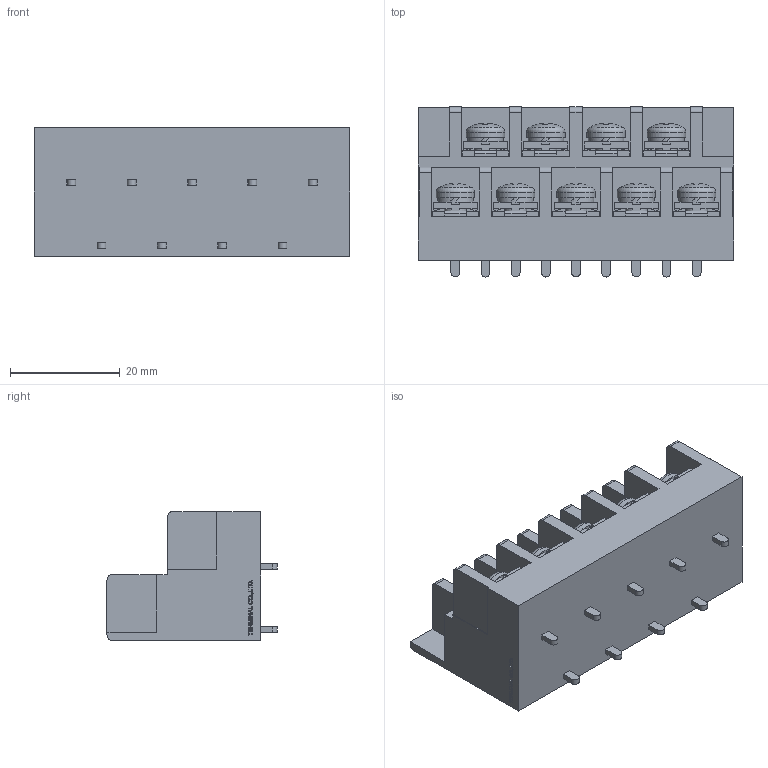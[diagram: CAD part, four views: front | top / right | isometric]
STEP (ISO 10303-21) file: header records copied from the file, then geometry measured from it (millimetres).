
FILE_DESCRIPTION(/* description */ ('Alibre Inc.'),/* implementation_level */ '2;1');
FILE_NAME(/* name */ 'export0',/* time_stamp */ '2016-08-06T13:55:22+09:00',/* author */ (''),/* organization */ (''),/* preprocessor_version */ 'ST-DEVELOPER v14',/* originating_system */ 'Alibre',/* authorisation */ '');
FILE_SCHEMA (('CONFIG_CONTROL_DESIGN'));
Length unit declared in the file: centimetre
Products named in the file (1): ID_1
Bounding box: 57.6 x 31 x 23.5 mm (x, y, z)
Volume: 24215.6 mm3; surface area: 11483.7 mm2
Topology: 1 solids, 81 shells, 1978 faces, 5175 edges, 3411 vertices
Faces by surface type: plane 1528, bspline 312, cylinder 75, cone 36, torus 18, sphere 9
Full cylindrical faces by diameter (mm): 4 x9, 7 x9
Entity records: 57884 total; most frequent: CARTESIAN_POINT 13371, ORIENTED_EDGE 10332, DIRECTION 6433, EDGE_CURVE 5130, VECTOR 3893, LINE 3893, VERTEX_POINT 3402, EDGE_LOOP 2142
